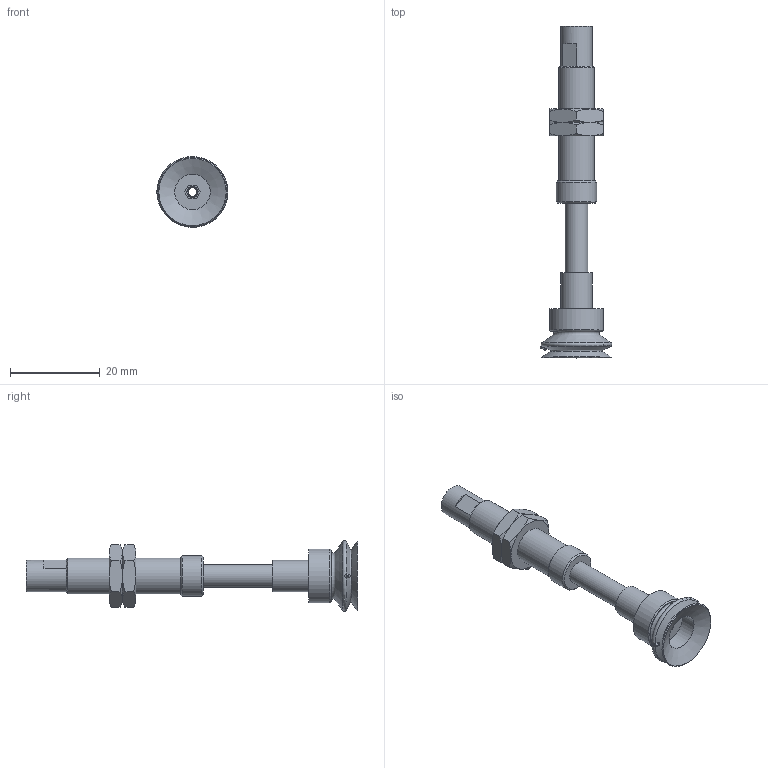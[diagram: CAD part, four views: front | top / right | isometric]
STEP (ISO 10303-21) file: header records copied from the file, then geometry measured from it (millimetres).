
FILE_DESCRIPTION(('STEP AP203'),'1');
FILE_NAME('-PE.stp','2025-04-25T02:34:15',(' '),(' '),'Spatial InterOp 3D',' ',' ');
FILE_SCHEMA(('CONFIG_CONTROL_DESIGN'));
Length unit declared in the file: millimetre
Products named in the file (8): BNABPJTS-15-15-※-PE; NUT; BODY; STOPPER; ZIG; BPJG-15-_; TN-PF-15-M5
Assembly tree (7 placements, depth 2):
  BNABPJTS-15-15-※-PE
    NUT
    NUT
    BODY
    STOPPER
    ZIG
    BPJG-15-_
    TN-PF-15-M5
Bounding box: 15.99 x 74 x 15.79 mm (x, y, z)
Volume: 3574.2 mm3; surface area: 5151.7 mm2
Topology: 7 solids, 7 shells, 136 faces, 289 edges, 175 vertices
Faces by surface type: plane 48, cone 46, cylinder 23, torus 9, bspline 6, sphere 4
Full cylindrical faces by diameter (mm): 2 x1, 2.5 x1, 3.4 x1, 3.5 x1, 4 x3, 4.2 x2, 4.6 x1, 5 x3, 5.2 x1, 7 x2, 7.25 x2, 7.9 x1, 8 x2, 9 x1, 12 x1
Entity records: 3784 total; most frequent: CARTESIAN_POINT 797, DIRECTION 558, ORIENTED_EDGE 442, AXIS2_PLACEMENT_3D 255, EDGE_CURVE 221, EDGE_LOOP 209, FACE_OUTER_BOUND 166, VERTEX_POINT 158
